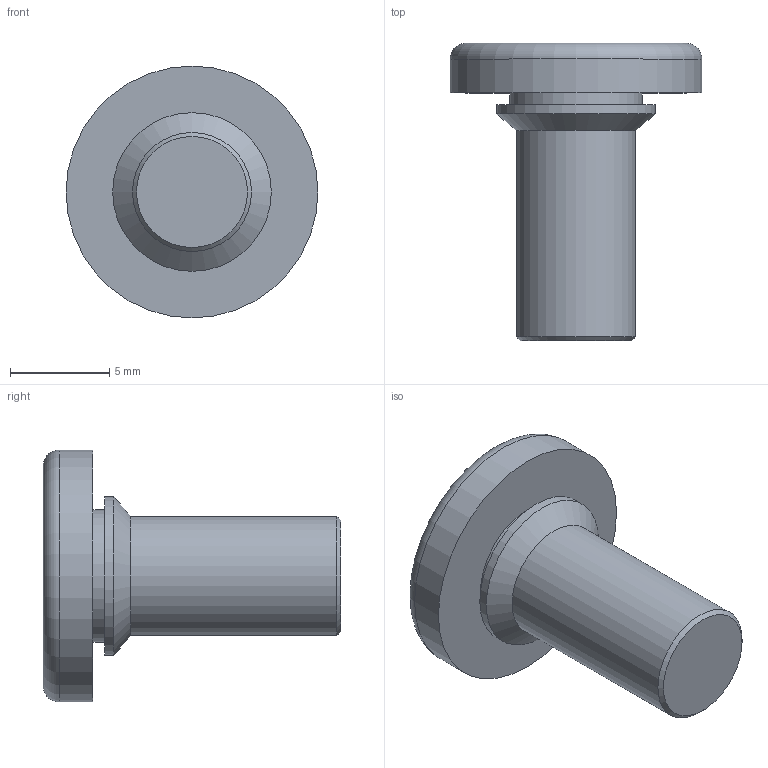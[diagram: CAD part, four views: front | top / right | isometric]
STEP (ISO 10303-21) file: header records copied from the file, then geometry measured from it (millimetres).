
FILE_DESCRIPTION(/* description */ (''),/* implementation_level */ '2;1');
FILE_NAME(/* name */ 'C:\Users\keval.kumar\Desktop\Fastit\Press Screw\M6\Press Screw_M6 x15.stp',/* time_stamp */ '2024-03-12T17:40:26+05:00',/* author */ ('keval.kumar'),/* organization */ (''),/* preprocessor_version */ 'ST-DEVELOPER v18.1',/* originating_system */ 'Autodesk Inventor 2022',/* authorisation */ '');
FILE_SCHEMA (('AUTOMOTIVE_DESIGN { 1 0 10303 214 3 1 1 }'));
Length unit declared in the file: millimetre
Products named in the file (1): M6 Press Screw
Bounding box: 12.7 x 15 x 12.7 mm (x, y, z)
Volume: 687.5 mm3; surface area: 597.6 mm2
Topology: 1 solids, 1 shells, 11 faces, 19 edges, 12 vertices
Faces by surface type: cylinder 4, plane 4, cone 2, torus 1
Full cylindrical faces by diameter (mm): 6 x1, 6.7 x1, 8 x1, 12.7 x1
Entity records: 313 total; most frequent: DIRECTION 56, CARTESIAN_POINT 43, ORIENTED_EDGE 38, AXIS2_PLACEMENT_3D 25, EDGE_CURVE 19, EDGE_LOOP 13, CIRCLE 13, VERTEX_POINT 12
